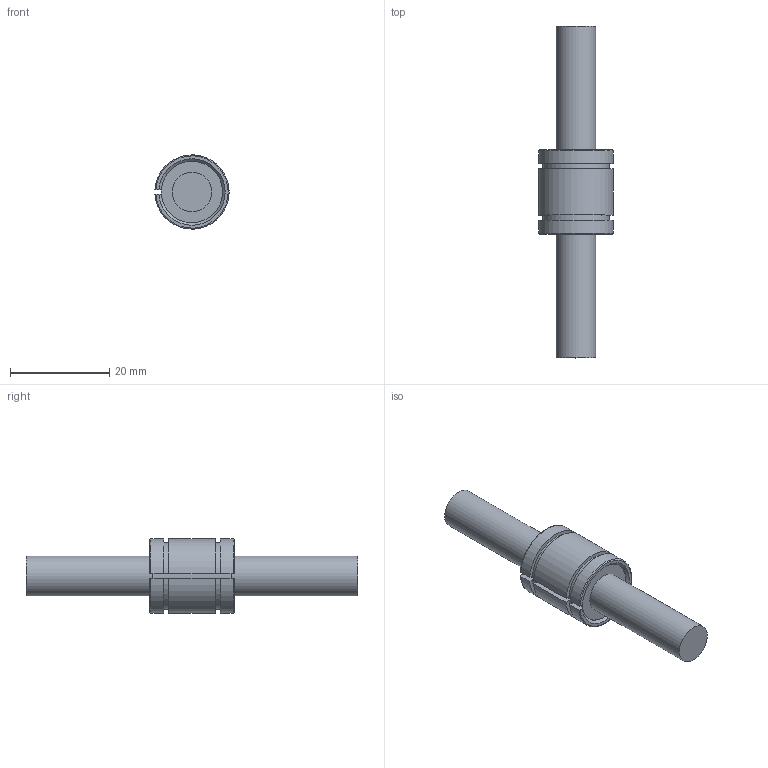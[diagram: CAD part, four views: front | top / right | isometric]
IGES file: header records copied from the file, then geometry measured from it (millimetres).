
Global section: file name: No Iges File Name specified; native system: Autodesk Inventor 2012; preprocessor: AutoDesk Inventor Iges Exporter R2012; author: user2; date: 20130206.101448; units: millimetre
Bounding box: 14.98 x 67 x 14.99 mm (x, y, z)
Volume: 5330.5 mm3; surface area: 2616.1 mm2
Topology: 1 solids, 1 shells, 26 faces, 64 edges, 42 vertices
Faces by surface type: plane 12, cylinder 8, revolution 4, torus 2
Full cylindrical faces by diameter (mm): 8 x2
